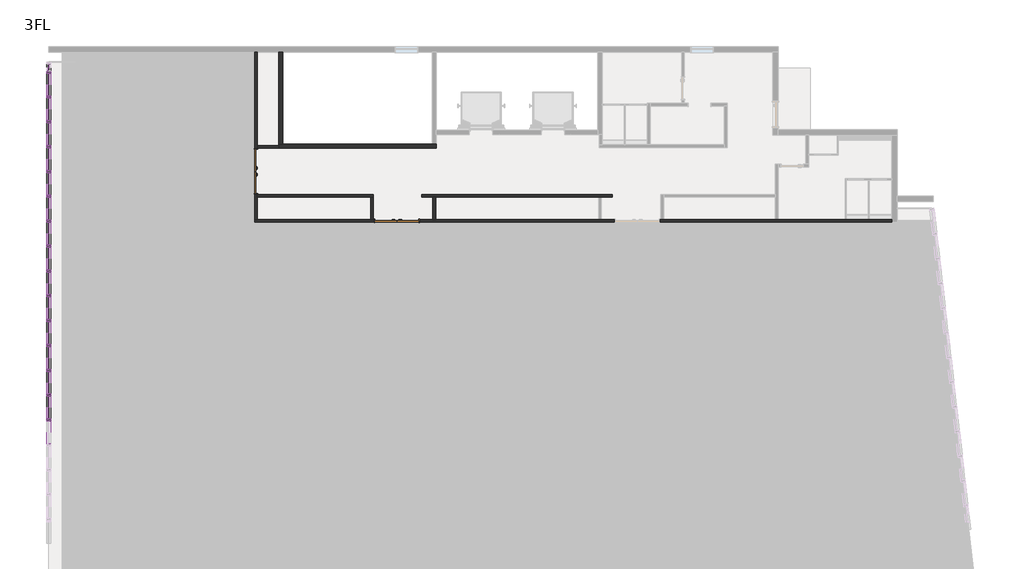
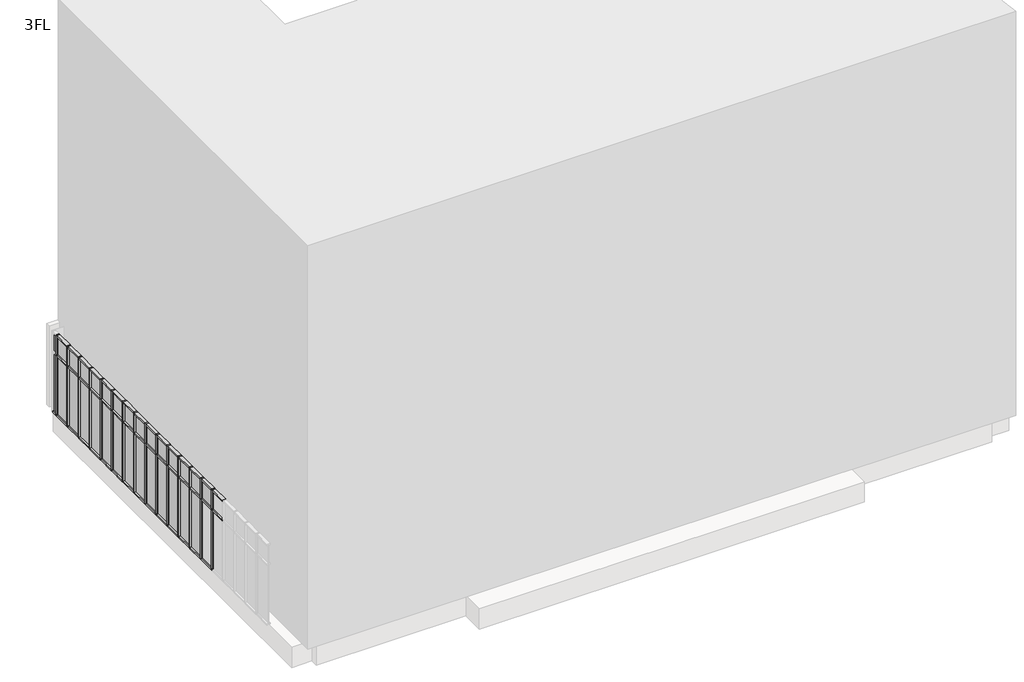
# One storey, part 3 of 5: 75 members, 29 plates, 9 walls, 2 doors.
"""IFC4 building model written with IfcOpenShell, lengths in millimetres."""

from ifc_helpers import new_model, si_unit, frame, origin, place, context, project, spatial, polyline, outline, extrude, faceted_brep, transform, mapped, element, save
from components import door_1de376c6, member_70x150_cdd4dcf9, member_70x150_66cf63de, member_70x150_26475b18, member_70x150_ad4265bc, member_70x150_a15bb337, plate_28587fd3, plate_396bcf3c, plate_4066ba05, plate_ba683b9a

model = new_model("IFC4")

# Units and contexts
model_context = context("Model", 3, world=origin())
ifc_project = project(units=[si_unit("LENGTHUNIT", "METRE", prefix="MILLI")], contexts=[model_context])

# Site, building, storey
site = spatial("IfcSite", under=ifc_project)
building = spatial("IfcBuilding", under=site)
storey = spatial("IfcBuildingStorey", under=building, Name="3FL", Elevation=8600.0)

# Doors
placement = place(None, origin())
door_shape = door_1de376c6(model_context)
element("IfcDoor", 1, ObjectType="両開き戸 : 両開き：w1600h2000", at=placement, inside=storey, context=model_context, shape_type="MappedRepresentation", body=[
    mapped(door_shape, transform((-21845.9784025, 12245.6585069, 8600.0), x_axis=(0.0, 1.0, 0.0), y_axis=(-1.0, 0.0, 0.0), z_axis=(0.0, 0.0, 1.0))),
])
element("IfcDoor", 2, ObjectType="両開き戸 : 両開き：w1600h2000", at=placement, inside=storey, context=model_context, shape_type="MappedRepresentation", body=[
    mapped(door_shape, transform((-16754.4500107, 10449.6868987, 8600.0), x_axis=(-1.0, 0.0, 0.0), y_axis=(0.0, -1.0, 0.0), z_axis=(0.0, 0.0, 1.0))),
])

# Members
member_70x150_shape = member_70x150_cdd4dcf9(model_context)
element("IfcMember", 3, ObjectType="長方形のマリオン : 70x150", at=placement, inside=storey, context=model_context, shape_type="MappedRepresentation", body=[
    mapped(member_70x150_shape, transform((-29345.9784025, 15834.6868987, 8600.0), x_axis=(0.0, 1.0, 0.0), y_axis=(1.0, 0.0, 0.0), z_axis=(0.0, 0.0, -1.0))),
])
element("IfcMember", 4, ObjectType="長方形のマリオン : 70x150", at=placement, inside=storey, context=model_context, shape_type="MappedRepresentation", body=[
    mapped(member_70x150_shape, transform((-29345.9784025, 14934.6868987, 8600.0), x_axis=(0.0, 1.0, 0.0), y_axis=(1.0, 0.0, 0.0), z_axis=(0.0, 0.0, -1.0))),
])
element("IfcMember", 5, ObjectType="長方形のマリオン : 70x150", at=placement, inside=storey, context=model_context, shape_type="MappedRepresentation", body=[
    mapped(member_70x150_shape, transform((-29345.9784025, 14034.6868987, 8600.0), x_axis=(0.0, 1.0, 0.0), y_axis=(1.0, 0.0, 0.0), z_axis=(0.0, 0.0, -1.0))),
])
element("IfcMember", 6, ObjectType="長方形のマリオン : 70x150", at=placement, inside=storey, context=model_context, shape_type="MappedRepresentation", body=[
    mapped(member_70x150_shape, transform((-29345.9784025, 13134.6868987, 8600.0), x_axis=(0.0, 1.0, 0.0), y_axis=(1.0, 0.0, 0.0), z_axis=(0.0, 0.0, -1.0))),
])
element("IfcMember", 7, ObjectType="長方形のマリオン : 70x150", at=placement, inside=storey, context=model_context, shape_type="MappedRepresentation", body=[
    mapped(member_70x150_shape, transform((-29345.9784025, 12234.6868987, 8600.0), x_axis=(0.0, 1.0, 0.0), y_axis=(1.0, 0.0, 0.0), z_axis=(0.0, 0.0, -1.0))),
])
element("IfcMember", 8, ObjectType="長方形のマリオン : 70x150", at=placement, inside=storey, context=model_context, shape_type="MappedRepresentation", body=[
    mapped(member_70x150_shape, transform((-29345.9784025, 11334.6868987, 8600.0), x_axis=(0.0, 1.0, 0.0), y_axis=(1.0, 0.0, 0.0), z_axis=(0.0, 0.0, -1.0))),
])
element("IfcMember", 9, ObjectType="長方形のマリオン : 70x150", at=placement, inside=storey, context=model_context, shape_type="MappedRepresentation", body=[
    mapped(member_70x150_shape, transform((-29345.9784025, 10434.6868987, 8600.0), x_axis=(0.0, 1.0, 0.0), y_axis=(1.0, 0.0, 0.0), z_axis=(0.0, 0.0, -1.0))),
])
element("IfcMember", 10, ObjectType="長方形のマリオン : 70x150", at=placement, inside=storey, context=model_context, shape_type="MappedRepresentation", body=[
    mapped(member_70x150_shape, transform((-29345.9784025, 9534.6868987, 8600.0), x_axis=(0.0, 1.0, 0.0), y_axis=(1.0, 0.0, 0.0), z_axis=(0.0, 0.0, -1.0))),
])
element("IfcMember", 11, ObjectType="長方形のマリオン : 70x150", at=placement, inside=storey, context=model_context, shape_type="MappedRepresentation", body=[
    mapped(member_70x150_shape, transform((-29345.9784025, 8634.6868987, 8600.0), x_axis=(0.0, 1.0, 0.0), y_axis=(1.0, 0.0, 0.0), z_axis=(0.0, 0.0, -1.0))),
])
element("IfcMember", 12, ObjectType="長方形のマリオン : 70x150", at=placement, inside=storey, context=model_context, shape_type="MappedRepresentation", body=[
    mapped(member_70x150_shape, transform((-29345.9784025, 7734.6868987, 8600.0), x_axis=(0.0, 1.0, 0.0), y_axis=(1.0, 0.0, 0.0), z_axis=(0.0, 0.0, -1.0))),
])
element("IfcMember", 13, ObjectType="長方形のマリオン : 70x150", at=placement, inside=storey, context=model_context, shape_type="MappedRepresentation", body=[
    mapped(member_70x150_shape, transform((-29345.9784025, 6834.6868987, 8600.0), x_axis=(0.0, 1.0, 0.0), y_axis=(1.0, 0.0, 0.0), z_axis=(0.0, 0.0, -1.0))),
])
element("IfcMember", 14, ObjectType="長方形のマリオン : 70x150", at=placement, inside=storey, context=model_context, shape_type="MappedRepresentation", body=[
    mapped(member_70x150_shape, transform((-29345.9784025, 5934.6868987, 8600.0), x_axis=(0.0, 1.0, 0.0), y_axis=(1.0, 0.0, 0.0), z_axis=(0.0, 0.0, -1.0))),
])
element("IfcMember", 15, ObjectType="長方形のマリオン : 70x150", at=placement, inside=storey, context=model_context, shape_type="MappedRepresentation", body=[
    mapped(member_70x150_shape, transform((-29345.9784025, 5034.6868987, 8600.0), x_axis=(0.0, 1.0, 0.0), y_axis=(1.0, 0.0, 0.0), z_axis=(0.0, 0.0, -1.0))),
])
element("IfcMember", 16, ObjectType="長方形のマリオン : 70x150", at=placement, inside=storey, context=model_context, shape_type="MappedRepresentation", body=[
    mapped(member_70x150_shape, transform((-29345.9784025, 4134.6868987, 8600.0), x_axis=(0.0, 1.0, 0.0), y_axis=(1.0, 0.0, 0.0), z_axis=(0.0, 0.0, -1.0))),
])
element("IfcMember", 17, ObjectType="長方形のマリオン : 70x150", at=placement, inside=storey, context=model_context, shape_type="MappedRepresentation", body=[
    mapped(member_70x150_shape, transform((-29345.9784025, 3234.6868987, 8600.0), x_axis=(0.0, 1.0, 0.0), y_axis=(1.0, 0.0, 0.0), z_axis=(0.0, 0.0, -1.0))),
])
member_70x150_2_shape = member_70x150_66cf63de(model_context)
element("IfcMember", 18, ObjectType="長方形のマリオン : 70x150", at=placement, inside=storey, context=model_context, shape_type="MappedRepresentation", body=[
    mapped(member_70x150_2_shape, transform((-29345.9784025, 14969.6868987, 8600.0), x_axis=(0.0, 0.0, -1.0), y_axis=(1.0, 0.0, 0.0), z_axis=(0.0, -1.0, 0.0))),
])
element("IfcMember", 19, ObjectType="長方形のマリオン : 70x150", at=placement, inside=storey, context=model_context, shape_type="MappedRepresentation", body=[
    mapped(member_70x150_2_shape, transform((-29345.9784025, 14069.6868987, 8600.0), x_axis=(0.0, 0.0, -1.0), y_axis=(1.0, 0.0, 0.0), z_axis=(0.0, -1.0, 0.0))),
])
element("IfcMember", 20, ObjectType="長方形のマリオン : 70x150", at=placement, inside=storey, context=model_context, shape_type="MappedRepresentation", body=[
    mapped(member_70x150_2_shape, transform((-29345.9784025, 13169.6868987, 8600.0), x_axis=(0.0, 0.0, -1.0), y_axis=(1.0, 0.0, 0.0), z_axis=(0.0, -1.0, 0.0))),
])
element("IfcMember", 21, ObjectType="長方形のマリオン : 70x150", at=placement, inside=storey, context=model_context, shape_type="MappedRepresentation", body=[
    mapped(member_70x150_2_shape, transform((-29345.9784025, 12269.6868987, 8600.0), x_axis=(0.0, 0.0, -1.0), y_axis=(1.0, 0.0, 0.0), z_axis=(0.0, -1.0, 0.0))),
])
element("IfcMember", 22, ObjectType="長方形のマリオン : 70x150", at=placement, inside=storey, context=model_context, shape_type="MappedRepresentation", body=[
    mapped(member_70x150_2_shape, transform((-29345.9784025, 11369.6868987, 8600.0), x_axis=(0.0, 0.0, -1.0), y_axis=(1.0, 0.0, 0.0), z_axis=(0.0, -1.0, 0.0))),
])
element("IfcMember", 23, ObjectType="長方形のマリオン : 70x150", at=placement, inside=storey, context=model_context, shape_type="MappedRepresentation", body=[
    mapped(member_70x150_2_shape, transform((-29345.9784025, 10469.6868987, 8600.0), x_axis=(0.0, 0.0, -1.0), y_axis=(1.0, 0.0, 0.0), z_axis=(0.0, -1.0, 0.0))),
])
element("IfcMember", 24, ObjectType="長方形のマリオン : 70x150", at=placement, inside=storey, context=model_context, shape_type="MappedRepresentation", body=[
    mapped(member_70x150_2_shape, transform((-29345.9784025, 9569.6868987, 8600.0), x_axis=(0.0, 0.0, -1.0), y_axis=(1.0, 0.0, 0.0), z_axis=(0.0, -1.0, 0.0))),
])
element("IfcMember", 25, ObjectType="長方形のマリオン : 70x150", at=placement, inside=storey, context=model_context, shape_type="MappedRepresentation", body=[
    mapped(member_70x150_2_shape, transform((-29345.9784025, 8669.6868987, 8600.0), x_axis=(0.0, 0.0, -1.0), y_axis=(1.0, 0.0, 0.0), z_axis=(0.0, -1.0, 0.0))),
])
element("IfcMember", 26, ObjectType="長方形のマリオン : 70x150", at=placement, inside=storey, context=model_context, shape_type="MappedRepresentation", body=[
    mapped(member_70x150_2_shape, transform((-29345.9784025, 7769.6868987, 8600.0), x_axis=(0.0, 0.0, -1.0), y_axis=(1.0, 0.0, 0.0), z_axis=(0.0, -1.0, 0.0))),
])
element("IfcMember", 27, ObjectType="長方形のマリオン : 70x150", at=placement, inside=storey, context=model_context, shape_type="MappedRepresentation", body=[
    mapped(member_70x150_2_shape, transform((-29345.9784025, 6869.6868987, 8600.0), x_axis=(0.0, 0.0, -1.0), y_axis=(1.0, 0.0, 0.0), z_axis=(0.0, -1.0, 0.0))),
])
element("IfcMember", 28, ObjectType="長方形のマリオン : 70x150", at=placement, inside=storey, context=model_context, shape_type="MappedRepresentation", body=[
    mapped(member_70x150_2_shape, transform((-29345.9784025, 5969.6868987, 8600.0), x_axis=(0.0, 0.0, -1.0), y_axis=(1.0, 0.0, 0.0), z_axis=(0.0, -1.0, 0.0))),
])
element("IfcMember", 29, ObjectType="長方形のマリオン : 70x150", at=placement, inside=storey, context=model_context, shape_type="MappedRepresentation", body=[
    mapped(member_70x150_2_shape, transform((-29345.9784025, 5069.6868987, 8600.0), x_axis=(0.0, 0.0, -1.0), y_axis=(1.0, 0.0, 0.0), z_axis=(0.0, -1.0, 0.0))),
])
element("IfcMember", 30, ObjectType="長方形のマリオン : 70x150", at=placement, inside=storey, context=model_context, shape_type="MappedRepresentation", body=[
    mapped(member_70x150_2_shape, transform((-29345.9784025, 4169.6868987, 8600.0), x_axis=(0.0, 0.0, -1.0), y_axis=(1.0, 0.0, 0.0), z_axis=(0.0, -1.0, 0.0))),
])
element("IfcMember", 31, ObjectType="長方形のマリオン : 70x150", at=placement, inside=storey, context=model_context, shape_type="MappedRepresentation", body=[
    mapped(member_70x150_2_shape, transform((-29345.9784025, 3269.6868987, 8600.0), x_axis=(0.0, 0.0, -1.0), y_axis=(1.0, 0.0, 0.0), z_axis=(0.0, -1.0, 0.0))),
])
element("IfcMember", 32, ObjectType="長方形のマリオン : 70x150", at=placement, inside=storey, context=model_context, shape_type="MappedRepresentation", body=[
    mapped(member_70x150_2_shape, transform((-29345.9784025, 15799.6868987, 12600.0), x_axis=(0.0, 0.0, 1.0), y_axis=(1.0, 0.0, 0.0), z_axis=(0.0, 1.0, 0.0))),
])
element("IfcMember", 33, ObjectType="長方形のマリオン : 70x150", at=placement, inside=storey, context=model_context, shape_type="MappedRepresentation", body=[
    mapped(member_70x150_2_shape, transform((-29345.9784025, 14899.6868987, 12600.0), x_axis=(0.0, 0.0, 1.0), y_axis=(1.0, 0.0, 0.0), z_axis=(0.0, 1.0, 0.0))),
])
element("IfcMember", 34, ObjectType="長方形のマリオン : 70x150", at=placement, inside=storey, context=model_context, shape_type="MappedRepresentation", body=[
    mapped(member_70x150_2_shape, transform((-29345.9784025, 13999.6868987, 12600.0), x_axis=(0.0, 0.0, 1.0), y_axis=(1.0, 0.0, 0.0), z_axis=(0.0, 1.0, 0.0))),
])
element("IfcMember", 35, ObjectType="長方形のマリオン : 70x150", at=placement, inside=storey, context=model_context, shape_type="MappedRepresentation", body=[
    mapped(member_70x150_2_shape, transform((-29345.9784025, 13099.6868987, 12600.0), x_axis=(0.0, 0.0, 1.0), y_axis=(1.0, 0.0, 0.0), z_axis=(0.0, 1.0, 0.0))),
])
element("IfcMember", 36, ObjectType="長方形のマリオン : 70x150", at=placement, inside=storey, context=model_context, shape_type="MappedRepresentation", body=[
    mapped(member_70x150_2_shape, transform((-29345.9784025, 12199.6868987, 12600.0), x_axis=(0.0, 0.0, 1.0), y_axis=(1.0, 0.0, 0.0), z_axis=(0.0, 1.0, 0.0))),
])
element("IfcMember", 37, ObjectType="長方形のマリオン : 70x150", at=placement, inside=storey, context=model_context, shape_type="MappedRepresentation", body=[
    mapped(member_70x150_2_shape, transform((-29345.9784025, 11299.6868987, 12600.0), x_axis=(0.0, 0.0, 1.0), y_axis=(1.0, 0.0, 0.0), z_axis=(0.0, 1.0, 0.0))),
])
element("IfcMember", 38, ObjectType="長方形のマリオン : 70x150", at=placement, inside=storey, context=model_context, shape_type="MappedRepresentation", body=[
    mapped(member_70x150_2_shape, transform((-29345.9784025, 10399.6868987, 12600.0), x_axis=(0.0, 0.0, 1.0), y_axis=(1.0, 0.0, 0.0), z_axis=(0.0, 1.0, 0.0))),
])
element("IfcMember", 39, ObjectType="長方形のマリオン : 70x150", at=placement, inside=storey, context=model_context, shape_type="MappedRepresentation", body=[
    mapped(member_70x150_2_shape, transform((-29345.9784025, 9499.6868987, 12600.0), x_axis=(0.0, 0.0, 1.0), y_axis=(1.0, 0.0, 0.0), z_axis=(0.0, 1.0, 0.0))),
])
element("IfcMember", 40, ObjectType="長方形のマリオン : 70x150", at=placement, inside=storey, context=model_context, shape_type="MappedRepresentation", body=[
    mapped(member_70x150_2_shape, transform((-29345.9784025, 8599.6868987, 12600.0), x_axis=(0.0, 0.0, 1.0), y_axis=(1.0, 0.0, 0.0), z_axis=(0.0, 1.0, 0.0))),
])
element("IfcMember", 41, ObjectType="長方形のマリオン : 70x150", at=placement, inside=storey, context=model_context, shape_type="MappedRepresentation", body=[
    mapped(member_70x150_2_shape, transform((-29345.9784025, 7699.6868987, 12600.0), x_axis=(0.0, 0.0, 1.0), y_axis=(1.0, 0.0, 0.0), z_axis=(0.0, 1.0, 0.0))),
])
element("IfcMember", 42, ObjectType="長方形のマリオン : 70x150", at=placement, inside=storey, context=model_context, shape_type="MappedRepresentation", body=[
    mapped(member_70x150_2_shape, transform((-29345.9784025, 6799.6868987, 12600.0), x_axis=(0.0, 0.0, 1.0), y_axis=(1.0, 0.0, 0.0), z_axis=(0.0, 1.0, 0.0))),
])
element("IfcMember", 43, ObjectType="長方形のマリオン : 70x150", at=placement, inside=storey, context=model_context, shape_type="MappedRepresentation", body=[
    mapped(member_70x150_2_shape, transform((-29345.9784025, 5899.6868987, 12600.0), x_axis=(0.0, 0.0, 1.0), y_axis=(1.0, 0.0, 0.0), z_axis=(0.0, 1.0, 0.0))),
])
element("IfcMember", 44, ObjectType="長方形のマリオン : 70x150", at=placement, inside=storey, context=model_context, shape_type="MappedRepresentation", body=[
    mapped(member_70x150_2_shape, transform((-29345.9784025, 4999.6868987, 12600.0), x_axis=(0.0, 0.0, 1.0), y_axis=(1.0, 0.0, 0.0), z_axis=(0.0, 1.0, 0.0))),
])
element("IfcMember", 45, ObjectType="長方形のマリオン : 70x150", at=placement, inside=storey, context=model_context, shape_type="MappedRepresentation", body=[
    mapped(member_70x150_2_shape, transform((-29345.9784025, 4099.6868987, 12600.0), x_axis=(0.0, 0.0, 1.0), y_axis=(1.0, 0.0, 0.0), z_axis=(0.0, 1.0, 0.0))),
])
element("IfcMember", 46, ObjectType="長方形のマリオン : 70x150", at=placement, inside=storey, context=model_context, shape_type="MappedRepresentation", body=[
    mapped(member_70x150_2_shape, transform((-29345.9784025, 3199.6868987, 12600.0), x_axis=(0.0, 0.0, 1.0), y_axis=(1.0, 0.0, 0.0), z_axis=(0.0, 1.0, 0.0))),
])
member_70x150_3_shape = member_70x150_26475b18(model_context)
element("IfcMember", 47, ObjectType="長方形のマリオン : 70x150", at=placement, inside=storey, context=model_context, shape_type="MappedRepresentation", body=[
    mapped(member_70x150_3_shape, transform((-29345.9784025, 15834.6868987, 11600.0), x_axis=(0.0, 1.0, 0.0), y_axis=(1.0, 0.0, 0.0), z_axis=(0.0, 0.0, -1.0))),
])
element("IfcMember", 48, ObjectType="長方形のマリオン : 70x150", at=placement, inside=storey, context=model_context, shape_type="MappedRepresentation", body=[
    mapped(member_70x150_3_shape, transform((-29345.9784025, 14934.6868987, 11600.0), x_axis=(0.0, 1.0, 0.0), y_axis=(1.0, 0.0, 0.0), z_axis=(0.0, 0.0, -1.0))),
])
element("IfcMember", 49, ObjectType="長方形のマリオン : 70x150", at=placement, inside=storey, context=model_context, shape_type="MappedRepresentation", body=[
    mapped(member_70x150_3_shape, transform((-29345.9784025, 14034.6868987, 11600.0), x_axis=(0.0, 1.0, 0.0), y_axis=(1.0, 0.0, 0.0), z_axis=(0.0, 0.0, -1.0))),
])
element("IfcMember", 50, ObjectType="長方形のマリオン : 70x150", at=placement, inside=storey, context=model_context, shape_type="MappedRepresentation", body=[
    mapped(member_70x150_3_shape, transform((-29345.9784025, 13134.6868987, 11600.0), x_axis=(0.0, 1.0, 0.0), y_axis=(1.0, 0.0, 0.0), z_axis=(0.0, 0.0, -1.0))),
])
element("IfcMember", 51, ObjectType="長方形のマリオン : 70x150", at=placement, inside=storey, context=model_context, shape_type="MappedRepresentation", body=[
    mapped(member_70x150_3_shape, transform((-29345.9784025, 12234.6868987, 11600.0), x_axis=(0.0, 1.0, 0.0), y_axis=(1.0, 0.0, 0.0), z_axis=(0.0, 0.0, -1.0))),
])
element("IfcMember", 52, ObjectType="長方形のマリオン : 70x150", at=placement, inside=storey, context=model_context, shape_type="MappedRepresentation", body=[
    mapped(member_70x150_3_shape, transform((-29345.9784025, 11334.6868987, 11600.0), x_axis=(0.0, 1.0, 0.0), y_axis=(1.0, 0.0, 0.0), z_axis=(0.0, 0.0, -1.0))),
])
element("IfcMember", 53, ObjectType="長方形のマリオン : 70x150", at=placement, inside=storey, context=model_context, shape_type="MappedRepresentation", body=[
    mapped(member_70x150_3_shape, transform((-29345.9784025, 10434.6868987, 11600.0), x_axis=(0.0, 1.0, 0.0), y_axis=(1.0, 0.0, 0.0), z_axis=(0.0, 0.0, -1.0))),
])
element("IfcMember", 54, ObjectType="長方形のマリオン : 70x150", at=placement, inside=storey, context=model_context, shape_type="MappedRepresentation", body=[
    mapped(member_70x150_3_shape, transform((-29345.9784025, 9534.6868987, 11600.0), x_axis=(0.0, 1.0, 0.0), y_axis=(1.0, 0.0, 0.0), z_axis=(0.0, 0.0, -1.0))),
])
element("IfcMember", 55, ObjectType="長方形のマリオン : 70x150", at=placement, inside=storey, context=model_context, shape_type="MappedRepresentation", body=[
    mapped(member_70x150_3_shape, transform((-29345.9784025, 8634.6868987, 11600.0), x_axis=(0.0, 1.0, 0.0), y_axis=(1.0, 0.0, 0.0), z_axis=(0.0, 0.0, -1.0))),
])
element("IfcMember", 56, ObjectType="長方形のマリオン : 70x150", at=placement, inside=storey, context=model_context, shape_type="MappedRepresentation", body=[
    mapped(member_70x150_3_shape, transform((-29345.9784025, 7734.6868987, 11600.0), x_axis=(0.0, 1.0, 0.0), y_axis=(1.0, 0.0, 0.0), z_axis=(0.0, 0.0, -1.0))),
])
element("IfcMember", 57, ObjectType="長方形のマリオン : 70x150", at=placement, inside=storey, context=model_context, shape_type="MappedRepresentation", body=[
    mapped(member_70x150_3_shape, transform((-29345.9784025, 6834.6868987, 11600.0), x_axis=(0.0, 1.0, 0.0), y_axis=(1.0, 0.0, 0.0), z_axis=(0.0, 0.0, -1.0))),
])
element("IfcMember", 58, ObjectType="長方形のマリオン : 70x150", at=placement, inside=storey, context=model_context, shape_type="MappedRepresentation", body=[
    mapped(member_70x150_3_shape, transform((-29345.9784025, 5934.6868987, 11600.0), x_axis=(0.0, 1.0, 0.0), y_axis=(1.0, 0.0, 0.0), z_axis=(0.0, 0.0, -1.0))),
])
element("IfcMember", 59, ObjectType="長方形のマリオン : 70x150", at=placement, inside=storey, context=model_context, shape_type="MappedRepresentation", body=[
    mapped(member_70x150_3_shape, transform((-29345.9784025, 5034.6868987, 11600.0), x_axis=(0.0, 1.0, 0.0), y_axis=(1.0, 0.0, 0.0), z_axis=(0.0, 0.0, -1.0))),
])
element("IfcMember", 60, ObjectType="長方形のマリオン : 70x150", at=placement, inside=storey, context=model_context, shape_type="MappedRepresentation", body=[
    mapped(member_70x150_3_shape, transform((-29345.9784025, 4134.6868987, 11600.0), x_axis=(0.0, 1.0, 0.0), y_axis=(1.0, 0.0, 0.0), z_axis=(0.0, 0.0, -1.0))),
])
element("IfcMember", 61, ObjectType="長方形のマリオン : 70x150", at=placement, inside=storey, context=model_context, shape_type="MappedRepresentation", body=[
    mapped(member_70x150_3_shape, transform((-29345.9784025, 3234.6868987, 11600.0), x_axis=(0.0, 1.0, 0.0), y_axis=(1.0, 0.0, 0.0), z_axis=(0.0, 0.0, -1.0))),
])
member_70x150_4_shape = member_70x150_ad4265bc(model_context)
element("IfcMember", 62, ObjectType="長方形のマリオン : 70x150", at=placement, inside=storey, context=model_context, shape_type="MappedRepresentation", body=[
    mapped(member_70x150_4_shape, transform((-29345.9784025, 15799.6868987, 11600.0), x_axis=(0.0, 0.0, 1.0), y_axis=(1.0, 0.0, 0.0), z_axis=(0.0, 1.0, 0.0))),
])
element("IfcMember", 63, ObjectType="長方形のマリオン : 70x150", at=placement, inside=storey, context=model_context, shape_type="MappedRepresentation", body=[
    mapped(member_70x150_4_shape, transform((-29345.9784025, 14899.6868987, 11600.0), x_axis=(0.0, 0.0, 1.0), y_axis=(1.0, 0.0, 0.0), z_axis=(0.0, 1.0, 0.0))),
])
element("IfcMember", 64, ObjectType="長方形のマリオン : 70x150", at=placement, inside=storey, context=model_context, shape_type="MappedRepresentation", body=[
    mapped(member_70x150_4_shape, transform((-29345.9784025, 13999.6868987, 11600.0), x_axis=(0.0, 0.0, 1.0), y_axis=(1.0, 0.0, 0.0), z_axis=(0.0, 1.0, 0.0))),
])
element("IfcMember", 65, ObjectType="長方形のマリオン : 70x150", at=placement, inside=storey, context=model_context, shape_type="MappedRepresentation", body=[
    mapped(member_70x150_4_shape, transform((-29345.9784025, 13099.6868987, 11600.0), x_axis=(0.0, 0.0, 1.0), y_axis=(1.0, 0.0, 0.0), z_axis=(0.0, 1.0, 0.0))),
])
element("IfcMember", 66, ObjectType="長方形のマリオン : 70x150", at=placement, inside=storey, context=model_context, shape_type="MappedRepresentation", body=[
    mapped(member_70x150_4_shape, transform((-29345.9784025, 12199.6868987, 11600.0), x_axis=(0.0, 0.0, 1.0), y_axis=(1.0, 0.0, 0.0), z_axis=(0.0, 1.0, 0.0))),
])
element("IfcMember", 67, ObjectType="長方形のマリオン : 70x150", at=placement, inside=storey, context=model_context, shape_type="MappedRepresentation", body=[
    mapped(member_70x150_4_shape, transform((-29345.9784025, 11299.6868987, 11600.0), x_axis=(0.0, 0.0, 1.0), y_axis=(1.0, 0.0, 0.0), z_axis=(0.0, 1.0, 0.0))),
])
element("IfcMember", 68, ObjectType="長方形のマリオン : 70x150", at=placement, inside=storey, context=model_context, shape_type="MappedRepresentation", body=[
    mapped(member_70x150_4_shape, transform((-29345.9784025, 10399.6868987, 11600.0), x_axis=(0.0, 0.0, 1.0), y_axis=(1.0, 0.0, 0.0), z_axis=(0.0, 1.0, 0.0))),
])
element("IfcMember", 69, ObjectType="長方形のマリオン : 70x150", at=placement, inside=storey, context=model_context, shape_type="MappedRepresentation", body=[
    mapped(member_70x150_4_shape, transform((-29345.9784025, 9499.6868987, 11600.0), x_axis=(0.0, 0.0, 1.0), y_axis=(1.0, 0.0, 0.0), z_axis=(0.0, 1.0, 0.0))),
])
element("IfcMember", 70, ObjectType="長方形のマリオン : 70x150", at=placement, inside=storey, context=model_context, shape_type="MappedRepresentation", body=[
    mapped(member_70x150_4_shape, transform((-29345.9784025, 8599.6868987, 11600.0), x_axis=(0.0, 0.0, 1.0), y_axis=(1.0, 0.0, 0.0), z_axis=(0.0, 1.0, 0.0))),
])
element("IfcMember", 71, ObjectType="長方形のマリオン : 70x150", at=placement, inside=storey, context=model_context, shape_type="MappedRepresentation", body=[
    mapped(member_70x150_4_shape, transform((-29345.9784025, 7699.6868987, 11600.0), x_axis=(0.0, 0.0, 1.0), y_axis=(1.0, 0.0, 0.0), z_axis=(0.0, 1.0, 0.0))),
])
element("IfcMember", 72, ObjectType="長方形のマリオン : 70x150", at=placement, inside=storey, context=model_context, shape_type="MappedRepresentation", body=[
    mapped(member_70x150_4_shape, transform((-29345.9784025, 6799.6868987, 11600.0), x_axis=(0.0, 0.0, 1.0), y_axis=(1.0, 0.0, 0.0), z_axis=(0.0, 1.0, 0.0))),
])
element("IfcMember", 73, ObjectType="長方形のマリオン : 70x150", at=placement, inside=storey, context=model_context, shape_type="MappedRepresentation", body=[
    mapped(member_70x150_4_shape, transform((-29345.9784025, 5899.6868987, 11600.0), x_axis=(0.0, 0.0, 1.0), y_axis=(1.0, 0.0, 0.0), z_axis=(0.0, 1.0, 0.0))),
])
element("IfcMember", 74, ObjectType="長方形のマリオン : 70x150", at=placement, inside=storey, context=model_context, shape_type="MappedRepresentation", body=[
    mapped(member_70x150_4_shape, transform((-29345.9784025, 4999.6868987, 11600.0), x_axis=(0.0, 0.0, 1.0), y_axis=(1.0, 0.0, 0.0), z_axis=(0.0, 1.0, 0.0))),
])
element("IfcMember", 75, ObjectType="長方形のマリオン : 70x150", at=placement, inside=storey, context=model_context, shape_type="MappedRepresentation", body=[
    mapped(member_70x150_4_shape, transform((-29345.9784025, 4099.6868987, 11600.0), x_axis=(0.0, 0.0, 1.0), y_axis=(1.0, 0.0, 0.0), z_axis=(0.0, 1.0, 0.0))),
])
element("IfcMember", 76, ObjectType="長方形のマリオン : 70x150", at=placement, inside=storey, context=model_context, shape_type="MappedRepresentation", body=[
    mapped(member_70x150_4_shape, transform((-29345.9784025, 3199.6868987, 11600.0), x_axis=(0.0, 0.0, 1.0), y_axis=(1.0, 0.0, 0.0), z_axis=(0.0, 1.0, 0.0))),
])
member_70x150_5_shape = member_70x150_a15bb337(model_context)
element("IfcMember", 77, ObjectType="長方形のマリオン : 70x150", at=placement, inside=storey, context=model_context, shape_type="MappedRepresentation", body=[
    mapped(member_70x150_5_shape, transform((-29345.9784025, 15869.6868987, 8600.0), x_axis=(0.0, 0.0, -1.0), y_axis=(1.0, 0.0, 0.0), z_axis=(0.0, -1.0, 0.0))),
])

# Plates
plate_shape = plate_28587fd3(model_context)
element("IfcPlate", 78, ObjectType="システム パネル : 標準", at=placement, inside=storey, context=model_context, shape_type="MappedRepresentation", body=[
    mapped(plate_shape, transform((-29345.9784025, 4584.6868987, 8670.0), x_axis=(0.0, 1.0, 0.0), y_axis=(-1.0, 0.0, 0.0), z_axis=(0.0, 0.0, 1.0))),
])
element("IfcPlate", 79, ObjectType="システム パネル : 標準", at=placement, inside=storey, context=model_context, shape_type="MappedRepresentation", body=[
    mapped(plate_shape, transform((-29345.9784025, 5484.6868987, 8670.0), x_axis=(0.0, 1.0, 0.0), y_axis=(-1.0, 0.0, 0.0), z_axis=(0.0, 0.0, 1.0))),
])
element("IfcPlate", 80, ObjectType="システム パネル : 標準", at=placement, inside=storey, context=model_context, shape_type="MappedRepresentation", body=[
    mapped(plate_shape, transform((-29345.9784025, 6384.6868987, 8670.0), x_axis=(0.0, 1.0, 0.0), y_axis=(-1.0, 0.0, 0.0), z_axis=(0.0, 0.0, 1.0))),
])
element("IfcPlate", 81, ObjectType="システム パネル : 標準", at=placement, inside=storey, context=model_context, shape_type="MappedRepresentation", body=[
    mapped(plate_shape, transform((-29345.9784025, 7284.6868987, 8670.0), x_axis=(0.0, 1.0, 0.0), y_axis=(-1.0, 0.0, 0.0), z_axis=(0.0, 0.0, 1.0))),
])
element("IfcPlate", 82, ObjectType="システム パネル : 標準", at=placement, inside=storey, context=model_context, shape_type="MappedRepresentation", body=[
    mapped(plate_shape, transform((-29345.9784025, 8184.6868987, 8670.0), x_axis=(0.0, 1.0, 0.0), y_axis=(-1.0, 0.0, 0.0), z_axis=(0.0, 0.0, 1.0))),
])
element("IfcPlate", 83, ObjectType="システム パネル : 標準", at=placement, inside=storey, context=model_context, shape_type="MappedRepresentation", body=[
    mapped(plate_shape, transform((-29345.9784025, 9084.6868987, 8670.0), x_axis=(0.0, 1.0, 0.0), y_axis=(-1.0, 0.0, 0.0), z_axis=(0.0, 0.0, 1.0))),
])
element("IfcPlate", 84, ObjectType="システム パネル : 標準", at=placement, inside=storey, context=model_context, shape_type="MappedRepresentation", body=[
    mapped(plate_shape, transform((-29345.9784025, 9984.6868987, 8670.0), x_axis=(0.0, 1.0, 0.0), y_axis=(-1.0, 0.0, 0.0), z_axis=(0.0, 0.0, 1.0))),
])
element("IfcPlate", 85, ObjectType="システム パネル : 標準", at=placement, inside=storey, context=model_context, shape_type="MappedRepresentation", body=[
    mapped(plate_shape, transform((-29345.9784025, 10884.6868987, 8670.0), x_axis=(0.0, 1.0, 0.0), y_axis=(-1.0, 0.0, 0.0), z_axis=(0.0, 0.0, 1.0))),
])
element("IfcPlate", 86, ObjectType="システム パネル : 標準", at=placement, inside=storey, context=model_context, shape_type="MappedRepresentation", body=[
    mapped(plate_shape, transform((-29345.9784025, 11784.6868987, 8670.0), x_axis=(0.0, 1.0, 0.0), y_axis=(-1.0, 0.0, 0.0), z_axis=(0.0, 0.0, 1.0))),
])
element("IfcPlate", 87, ObjectType="システム パネル : 標準", at=placement, inside=storey, context=model_context, shape_type="MappedRepresentation", body=[
    mapped(plate_shape, transform((-29345.9784025, 12684.6868987, 8670.0), x_axis=(0.0, 1.0, 0.0), y_axis=(-1.0, 0.0, 0.0), z_axis=(0.0, 0.0, 1.0))),
])
element("IfcPlate", 88, ObjectType="システム パネル : 標準", at=placement, inside=storey, context=model_context, shape_type="MappedRepresentation", body=[
    mapped(plate_shape, transform((-29345.9784025, 13584.6868987, 8670.0), x_axis=(0.0, 1.0, 0.0), y_axis=(-1.0, 0.0, 0.0), z_axis=(0.0, 0.0, 1.0))),
])
element("IfcPlate", 89, ObjectType="システム パネル : 標準", at=placement, inside=storey, context=model_context, shape_type="MappedRepresentation", body=[
    mapped(plate_shape, transform((-29345.9784025, 14484.6868987, 8670.0), x_axis=(0.0, 1.0, 0.0), y_axis=(-1.0, 0.0, 0.0), z_axis=(0.0, 0.0, 1.0))),
])
element("IfcPlate", 90, ObjectType="システム パネル : 標準", at=placement, inside=storey, context=model_context, shape_type="MappedRepresentation", body=[
    mapped(plate_shape, transform((-29345.9784025, 15384.6868987, 8670.0), x_axis=(0.0, 1.0, 0.0), y_axis=(-1.0, 0.0, 0.0), z_axis=(0.0, 0.0, 1.0))),
])
plate_2_shape = plate_396bcf3c(model_context)
element("IfcPlate", 91, ObjectType="システム パネル : 標準", at=placement, inside=storey, context=model_context, shape_type="MappedRepresentation", body=[
    mapped(plate_2_shape, transform((-29345.9784025, 3684.6868987, 11635.0), x_axis=(0.0, 1.0, 0.0), y_axis=(-1.0, 0.0, 0.0), z_axis=(0.0, 0.0, 1.0))),
])
element("IfcPlate", 92, ObjectType="システム パネル : 標準", at=placement, inside=storey, context=model_context, shape_type="MappedRepresentation", body=[
    mapped(plate_2_shape, transform((-29345.9784025, 4584.6868987, 11635.0), x_axis=(0.0, 1.0, 0.0), y_axis=(-1.0, 0.0, 0.0), z_axis=(0.0, 0.0, 1.0))),
])
element("IfcPlate", 93, ObjectType="システム パネル : 標準", at=placement, inside=storey, context=model_context, shape_type="MappedRepresentation", body=[
    mapped(plate_2_shape, transform((-29345.9784025, 5484.6868987, 11635.0), x_axis=(0.0, 1.0, 0.0), y_axis=(-1.0, 0.0, 0.0), z_axis=(0.0, 0.0, 1.0))),
])
element("IfcPlate", 94, ObjectType="システム パネル : 標準", at=placement, inside=storey, context=model_context, shape_type="MappedRepresentation", body=[
    mapped(plate_2_shape, transform((-29345.9784025, 6384.6868987, 11635.0), x_axis=(0.0, 1.0, 0.0), y_axis=(-1.0, 0.0, 0.0), z_axis=(0.0, 0.0, 1.0))),
])
element("IfcPlate", 95, ObjectType="システム パネル : 標準", at=placement, inside=storey, context=model_context, shape_type="MappedRepresentation", body=[
    mapped(plate_2_shape, transform((-29345.9784025, 7284.6868987, 11635.0), x_axis=(0.0, 1.0, 0.0), y_axis=(-1.0, 0.0, 0.0), z_axis=(0.0, 0.0, 1.0))),
])
element("IfcPlate", 96, ObjectType="システム パネル : 標準", at=placement, inside=storey, context=model_context, shape_type="MappedRepresentation", body=[
    mapped(plate_2_shape, transform((-29345.9784025, 8184.6868987, 11635.0), x_axis=(0.0, 1.0, 0.0), y_axis=(-1.0, 0.0, 0.0), z_axis=(0.0, 0.0, 1.0))),
])
element("IfcPlate", 97, ObjectType="システム パネル : 標準", at=placement, inside=storey, context=model_context, shape_type="MappedRepresentation", body=[
    mapped(plate_2_shape, transform((-29345.9784025, 9084.6868987, 11635.0), x_axis=(0.0, 1.0, 0.0), y_axis=(-1.0, 0.0, 0.0), z_axis=(0.0, 0.0, 1.0))),
])
element("IfcPlate", 98, ObjectType="システム パネル : 標準", at=placement, inside=storey, context=model_context, shape_type="MappedRepresentation", body=[
    mapped(plate_2_shape, transform((-29345.9784025, 9984.6868987, 11635.0), x_axis=(0.0, 1.0, 0.0), y_axis=(-1.0, 0.0, 0.0), z_axis=(0.0, 0.0, 1.0))),
])
element("IfcPlate", 99, ObjectType="システム パネル : 標準", at=placement, inside=storey, context=model_context, shape_type="MappedRepresentation", body=[
    mapped(plate_2_shape, transform((-29345.9784025, 10884.6868987, 11635.0), x_axis=(0.0, 1.0, 0.0), y_axis=(-1.0, 0.0, 0.0), z_axis=(0.0, 0.0, 1.0))),
])
element("IfcPlate", 100, ObjectType="システム パネル : 標準", at=placement, inside=storey, context=model_context, shape_type="MappedRepresentation", body=[
    mapped(plate_2_shape, transform((-29345.9784025, 11784.6868987, 11635.0), x_axis=(0.0, 1.0, 0.0), y_axis=(-1.0, 0.0, 0.0), z_axis=(0.0, 0.0, 1.0))),
])
element("IfcPlate", 101, ObjectType="システム パネル : 標準", at=placement, inside=storey, context=model_context, shape_type="MappedRepresentation", body=[
    mapped(plate_2_shape, transform((-29345.9784025, 12684.6868987, 11635.0), x_axis=(0.0, 1.0, 0.0), y_axis=(-1.0, 0.0, 0.0), z_axis=(0.0, 0.0, 1.0))),
])
element("IfcPlate", 102, ObjectType="システム パネル : 標準", at=placement, inside=storey, context=model_context, shape_type="MappedRepresentation", body=[
    mapped(plate_2_shape, transform((-29345.9784025, 13584.6868987, 11635.0), x_axis=(0.0, 1.0, 0.0), y_axis=(-1.0, 0.0, 0.0), z_axis=(0.0, 0.0, 1.0))),
])
element("IfcPlate", 103, ObjectType="システム パネル : 標準", at=placement, inside=storey, context=model_context, shape_type="MappedRepresentation", body=[
    mapped(plate_2_shape, transform((-29345.9784025, 14484.6868987, 11635.0), x_axis=(0.0, 1.0, 0.0), y_axis=(-1.0, 0.0, 0.0), z_axis=(0.0, 0.0, 1.0))),
])
element("IfcPlate", 104, ObjectType="システム パネル : 標準", at=placement, inside=storey, context=model_context, shape_type="MappedRepresentation", body=[
    mapped(plate_2_shape, transform((-29345.9784025, 15384.6868987, 11635.0), x_axis=(0.0, 1.0, 0.0), y_axis=(-1.0, 0.0, 0.0), z_axis=(0.0, 0.0, 1.0))),
])
plate_3_shape = plate_4066ba05(model_context)
element("IfcPlate", 105, ObjectType="システム パネル : 標準", at=placement, inside=storey, context=model_context, shape_type="MappedRepresentation", body=[
    mapped(plate_3_shape, transform((-29345.9784025, 15999.6868987, 8670.0), x_axis=(0.0, 1.0, 0.0), y_axis=(-1.0, 0.0, 0.0), z_axis=(0.0, 0.0, 1.0))),
])
plate_4_shape = plate_ba683b9a(model_context)
element("IfcPlate", 106, ObjectType="システム パネル : 標準", at=placement, inside=storey, context=model_context, shape_type="MappedRepresentation", body=[
    mapped(plate_4_shape, transform((-29345.9784025, 15999.6868987, 11635.0), x_axis=(0.0, 1.0, 0.0), y_axis=(-1.0, 0.0, 0.0), z_axis=(0.0, 0.0, 1.0))),
])

# Walls
element("IfcWall", 107, ObjectType="標準150", at=placement, inside=storey, context=model_context, shape_type="Brep", body=[
    faceted_brep([(-15320.9784025, 13224.6868987, 8600.0), (-15470.9784025, 13224.6868987, 8600.0), (-20870.9784025, 13224.6868987, 8600.0), (-21020.9784025, 13224.6868987, 8600.0), (-21020.9784025, 13224.6868987, 12600.0), (-20870.9784025, 13224.6868987, 12600.0), (-15470.9784025, 13224.6868987, 12600.0), (-15320.9784025, 13224.6868987, 12600.0), (-15320.9784025, 13074.6868987, 8600.0), (-15320.9784025, 13074.6868987, 12600.0), (-21020.9784025, 13074.6868987, 12600.0), (-21020.9784025, 13074.6868987, 8600.0), (-21020.9784025, 13174.6868987, 8600.0), (-21020.9784025, 13174.6868987, 12600.0)], [[[0, 1, 2, 3, 4, 5, 6, 7]], [[8, 9, 10, 11]], [[3, 2, 1, 0, 8, 11, 12]], [[7, 6, 5, 4, 13, 10, 9]], [[4, 3, 12, 11, 10, 13]], [[0, 7, 9, 8]]]),
])
element("IfcWall", 108, ObjectType="標準150", at=placement, inside=storey, context=model_context, shape_type="SweptSolid", body=[
    extrude(outline(polyline([(-20870.9784025, 16549.6868987), (-20870.9784025, 13224.6868987), (-21020.9784025, 13224.6868987), (-21020.9784025, 16549.6868987), (-20870.9784025, 16549.6868987)])), frame((0.0, 0.0, 8600.0), z_axis=(0.0, 0.0, 1.0), x_axis=(1.0, 0.0, 0.0)), (0.0, 0.0, 1.0), 4000.0),
])
element("IfcWall", 109, ObjectType="標準100", at=placement, inside=storey, context=model_context, shape_type="Brep", body=[
    faceted_brep([(1154.0215975, 10499.6868987, 8600.0), (354.0215975, 10499.6868987, 8600.0), (314.0215975, 10499.6868987, 8600.0), (-485.9784025, 10499.6868987, 8600.0), (-525.9784025, 10499.6868987, 8600.0), (-2945.9784025, 10499.6868987, 8600.0), (-3045.9784025, 10499.6868987, 8600.0), (-7095.9784025, 10499.6868987, 8600.0), (-7195.9784025, 10499.6868987, 8600.0), (-7220.9784025, 10499.6868987, 8600.0), (-7220.9784025, 10499.6868987, 10625.0), (-8870.9784025, 10499.6868987, 10625.0), (-8870.9784025, 10499.6868987, 8600.0), (-9345.9784025, 10499.6868987, 8600.0), (-9445.9784025, 10499.6868987, 8600.0), (-15345.9784025, 10499.6868987, 8600.0), (-15445.9784025, 10499.6868987, 8600.0), (-15920.9784025, 10499.6868987, 8600.0), (-15920.9784025, 10499.6868987, 10625.0), (-17570.9784025, 10499.6868987, 10625.0), (-17570.9784025, 10499.6868987, 8600.0), (-17595.9784025, 10499.6868987, 8600.0), (-17695.9784025, 10499.6868987, 8600.0), (-21795.9784025, 10499.6868987, 8600.0), (-21895.9784025, 10499.6868987, 8600.0), (-21895.9784025, 10499.6868987, 12600.0), (-21795.9784025, 10499.6868987, 12600.0), (-17695.9784025, 10499.6868987, 12600.0), (-17595.9784025, 10499.6868987, 12600.0), (-15445.9784025, 10499.6868987, 12600.0), (-15345.9784025, 10499.6868987, 12600.0), (-9445.9784025, 10499.6868987, 12600.0), (-9345.9784025, 10499.6868987, 12600.0), (-7195.9784025, 10499.6868987, 12600.0), (-7095.9784025, 10499.6868987, 12600.0), (-3045.9784025, 10499.6868987, 12600.0), (-2945.9784025, 10499.6868987, 12600.0), (1154.0215975, 10499.6868987, 12600.0), (-7220.9784025, 10399.6868987, 10625.0), (-7220.9784025, 10399.6868987, 8600.0), (1154.0215975, 10399.6868987, 8600.0), (1154.0215975, 10399.6868987, 12600.0), (-21895.9784025, 10399.6868987, 12600.0), (-21895.9784025, 10399.6868987, 8600.0), (-17570.9784025, 10399.6868987, 8600.0), (-17570.9784025, 10399.6868987, 10625.0), (-15920.9784025, 10399.6868987, 10625.0), (-15920.9784025, 10399.6868987, 8600.0), (-8870.9784025, 10399.6868987, 8600.0), (-8870.9784025, 10399.6868987, 10625.0)], [[[0, 1, 2, 3, 4, 5, 6, 7, 8, 9, 10, 11, 12, 13, 14, 15, 16, 17, 18, 19, 20, 21, 22, 23, 24, 25, 26, 27, 28, 29, 30, 31, 32, 33, 34, 35, 36, 37]], [[38, 39, 40, 41, 42, 43, 44, 45, 46, 47, 48, 49]], [[44, 43, 24, 23, 22, 21, 20]], [[48, 47, 17, 16, 15, 14, 13, 12]], [[40, 39, 9, 8, 7, 6, 5, 4, 3, 2, 1, 0]], [[37, 36, 35, 34, 33, 32, 31, 30, 29, 28, 27, 26, 25, 42, 41]], [[25, 24, 43, 42]], [[0, 37, 41, 40]], [[20, 19, 45, 44]], [[18, 17, 47, 46]], [[19, 18, 46, 45]], [[12, 11, 49, 48]], [[10, 9, 39, 38]], [[11, 10, 38, 49]]]),
])
element("IfcWall", 110, ObjectType="標準100", at=placement, inside=storey, context=model_context, shape_type="Brep", body=[
    faceted_brep([(-21795.9784025, 10499.6868987, 8600.0), (-21795.9784025, 11299.6868987, 8600.0), (-21795.9784025, 11399.6868987, 8600.0), (-21795.9784025, 11412.1868987, 8600.0), (-21795.9784025, 11412.1868987, 10625.0), (-21795.9784025, 13062.1868987, 10625.0), (-21795.9784025, 13062.1868987, 8600.0), (-21795.9784025, 13074.6868987, 8600.0), (-21795.9784025, 13174.6868987, 8600.0), (-21795.9784025, 16549.6868987, 8600.0), (-21795.9784025, 16549.6868987, 12600.0), (-21795.9784025, 13174.6868987, 12600.0), (-21795.9784025, 13074.6868987, 12600.0), (-21795.9784025, 11399.6868987, 12600.0), (-21795.9784025, 11299.6868987, 12600.0), (-21795.9784025, 10499.6868987, 12600.0), (-21895.9784025, 11412.1868987, 10625.0), (-21895.9784025, 11412.1868987, 8600.0), (-21895.9784025, 10499.6868987, 8600.0), (-21895.9784025, 10499.6868987, 12600.0), (-21895.9784025, 16549.6868987, 12600.0), (-21895.9784025, 16549.6868987, 8600.0), (-21895.9784025, 13062.1868987, 8600.0), (-21895.9784025, 13062.1868987, 10625.0)], [[[0, 1, 2, 3, 4, 5, 6, 7, 8, 9, 10, 11, 12, 13, 14, 15]], [[16, 17, 18, 19, 20, 21, 22, 23]], [[22, 21, 9, 8, 7, 6]], [[18, 17, 3, 2, 1, 0]], [[15, 14, 13, 12, 11, 10, 20, 19]], [[0, 15, 19, 18]], [[10, 9, 21, 20]], [[6, 5, 23, 22]], [[4, 3, 17, 16]], [[5, 4, 16, 23]]]),
])
element("IfcWall", 111, ObjectType="標準100", at=placement, inside=storey, context=model_context, shape_type="SweptSolid", body=[
    extrude(outline(polyline([(-15345.9784025, 11299.6868987), (-15345.9784025, 10499.6868987), (-15445.9784025, 10499.6868987), (-15445.9784025, 11299.6868987), (-15345.9784025, 11299.6868987)])), frame((0.0, 0.0, 8600.0), z_axis=(0.0, 0.0, 1.0), x_axis=(1.0, 0.0, 0.0)), (0.0, 0.0, 1.0), 4000.0),
])
element("IfcWall", 112, ObjectType="標準100", at=placement, inside=storey, context=model_context, shape_type="Brep", body=[
    faceted_brep([(-15845.9784025, 11299.6868987, 8600.0), (-15445.9784025, 11299.6868987, 8600.0), (-15345.9784025, 11299.6868987, 8600.0), (-9445.9784025, 11299.6868987, 8600.0), (-9345.9784025, 11299.6868987, 8600.0), (-8945.9784025, 11299.6868987, 8600.0), (-8945.9784025, 11299.6868987, 12600.0), (-9345.9784025, 11299.6868987, 12600.0), (-9445.9784025, 11299.6868987, 12600.0), (-15345.9784025, 11299.6868987, 12600.0), (-15445.9784025, 11299.6868987, 12600.0), (-15845.9784025, 11299.6868987, 12600.0), (-15845.9784025, 11399.6868987, 8600.0), (-15845.9784025, 11399.6868987, 12600.0), (-8945.9784025, 11399.6868987, 12600.0), (-8945.9784025, 11399.6868987, 8600.0), (-8945.9784025, 11349.6868987, 12600.0), (-15845.9784025, 11349.6868987, 12600.0)], [[[0, 1, 2, 3, 4, 5, 6, 7, 8, 9, 10, 11]], [[12, 13, 14, 15]], [[5, 4, 3, 2, 1, 0, 12, 15]], [[6, 5, 15, 14, 16]], [[11, 10, 9, 8, 7, 6, 16, 14, 13, 17]], [[0, 11, 17, 13, 12]]]),
])
element("IfcWall", 113, ObjectType="標準100", at=placement, inside=storey, context=model_context, shape_type="Brep", body=[
    faceted_brep([(-21795.9784025, 11299.6868987, 8600.0), (-17695.9784025, 11299.6868987, 8600.0), (-17595.9784025, 11299.6868987, 8600.0), (-17595.9784025, 11299.6868987, 12600.0), (-17695.9784025, 11299.6868987, 12600.0), (-21795.9784025, 11299.6868987, 12600.0), (-21795.9784025, 11399.6868987, 8600.0), (-21795.9784025, 11399.6868987, 12600.0), (-17595.9784025, 11399.6868987, 12600.0), (-17595.9784025, 11399.6868987, 8600.0)], [[[0, 1, 2, 3, 4, 5]], [[6, 7, 8, 9]], [[2, 1, 0, 6, 9]], [[5, 4, 3, 8, 7]], [[0, 5, 7, 6]], [[3, 2, 9, 8]]]),
])
element("IfcWall", 114, ObjectType="標準100", at=placement, inside=storey, context=model_context, shape_type="SweptSolid", body=[
    extrude(outline(polyline([(-17695.9784025, 10499.6868987), (-17695.9784025, 11299.6868987), (-17595.9784025, 11299.6868987), (-17595.9784025, 10499.6868987), (-17695.9784025, 10499.6868987)])), frame((0.0, 0.0, 8600.0), z_axis=(0.0, 0.0, 1.0), x_axis=(1.0, 0.0, 0.0)), (0.0, 0.0, 1.0), 4000.0),
])
element("IfcWall", 115, ObjectType="標準100", at=placement, inside=storey, context=model_context, shape_type="SweptSolid", body=[
    extrude(outline(polyline([(-21020.9784025, 13074.6868987), (-21795.9784025, 13074.6868987), (-21795.9784025, 13174.6868987), (-21020.9784025, 13174.6868987), (-21020.9784025, 13074.6868987)])), frame((0.0, 0.0, 8600.0), z_axis=(0.0, 0.0, 1.0), x_axis=(1.0, 0.0, 0.0)), (0.0, 0.0, 1.0), 4000.0),
])

save(model, "model.ifc")
